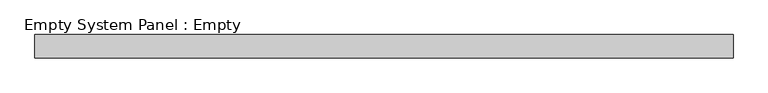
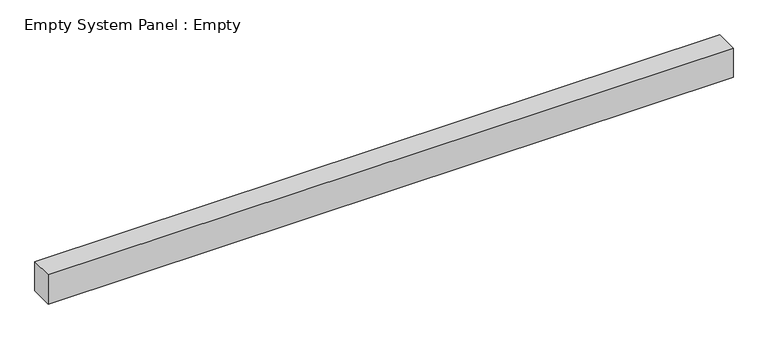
"""IFC4 building model written with IfcOpenShell, lengths in millimetres: plate geometry, Empty System Panel : Empty."""

from ifc_helpers import new_model, si_unit, origin, origin_with_axes, place, context, project, spatial, polyline, outline, extrude, source, transform, mapped, element, save


def empty_system_panel_empty_50652f15(model_context):
    return source(origin(), model_context, "Body", "SweptSolid", [
        extrude(outline(polyline([(1500.0, -50.0), (-1500.0, -50.0), (-1500.0, 50.0), (1500.0, 50.0), (1500.0, -50.0)])), origin_with_axes(), (0.0, 0.0, 1.0), 135.0),
    ])


if __name__ == "__main__":
    model = new_model("IFC4")
    model_context = context("Model", 3, world=origin())
    ifc_project = project(units=[si_unit("LENGTHUNIT", "METRE", prefix="MILLI")], contexts=[model_context])
    site = spatial("IfcSite", under=ifc_project)
    building = spatial("IfcBuilding", under=site)
    placement = place(None, origin())
    empty_system_panel_empty_shape = empty_system_panel_empty_50652f15(model_context)
    element("IfcPlate", 1, ObjectType="Empty System Panel : Empty", at=placement, inside=building, context=model_context, shape_type="MappedRepresentation", body=[
        mapped(empty_system_panel_empty_shape, transform((0.0, 0.0, 0.0), x_axis=(1.0, 0.0, 0.0), y_axis=(0.0, 1.0, 0.0), z_axis=(0.0, 0.0, 1.0))),
    ])
    save(model, "model.ifc")
